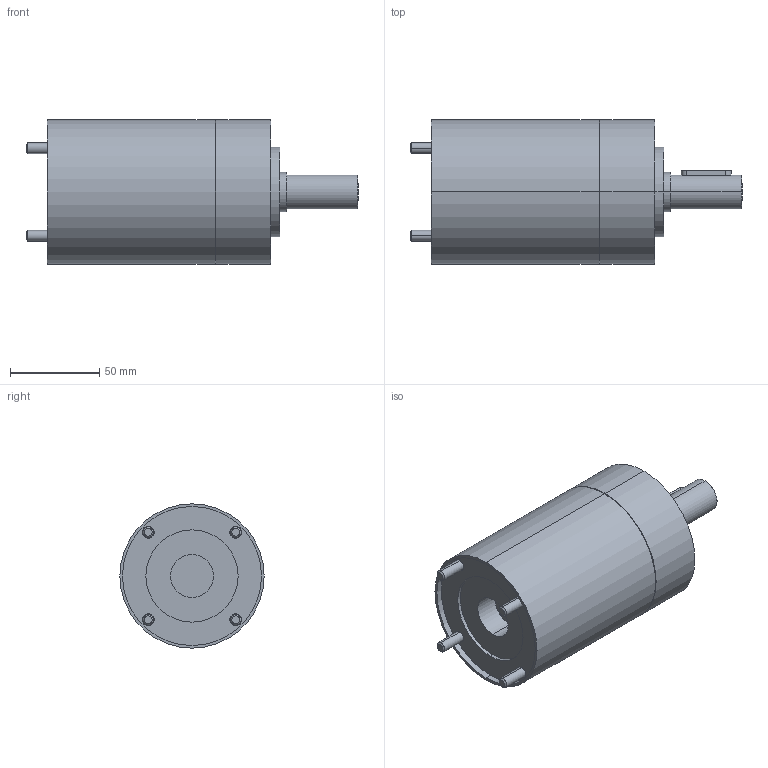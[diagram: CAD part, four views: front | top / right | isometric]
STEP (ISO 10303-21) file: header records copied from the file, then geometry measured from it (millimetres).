
FILE_DESCRIPTION (( 'STEP AP214' ), '1' );
FILE_NAME ('PM80_4stufig.STEP', '2012-09-19T12:43:27', ( ' ' ), ( '' ), 'SwSTEP 2.0', 'SolidWorks 2010', '' );
FILE_SCHEMA (( 'AUTOMOTIVE_DESIGN' ));
Length unit declared in the file: millimetre
Products named in the file (1): PM80_4stufig
Bounding box: 186.3 x 81 x 81 mm (x, y, z)
Volume: 637909.1 mm3; surface area: 70383.6 mm2
Topology: 1 solids, 1 shells, 161 faces, 348 edges, 211 vertices
Faces by surface type: cylinder 62, plane 55, cone 36, torus 8
Entity records: 5511 total; most frequent: DIRECTION 820, CARTESIAN_POINT 773, ORIENTED_EDGE 676, EDGE_CURVE 338, AXIS2_PLACEMENT_3D 322, VERTEX_POINT 211, EDGE_LOOP 193, LINE 176
